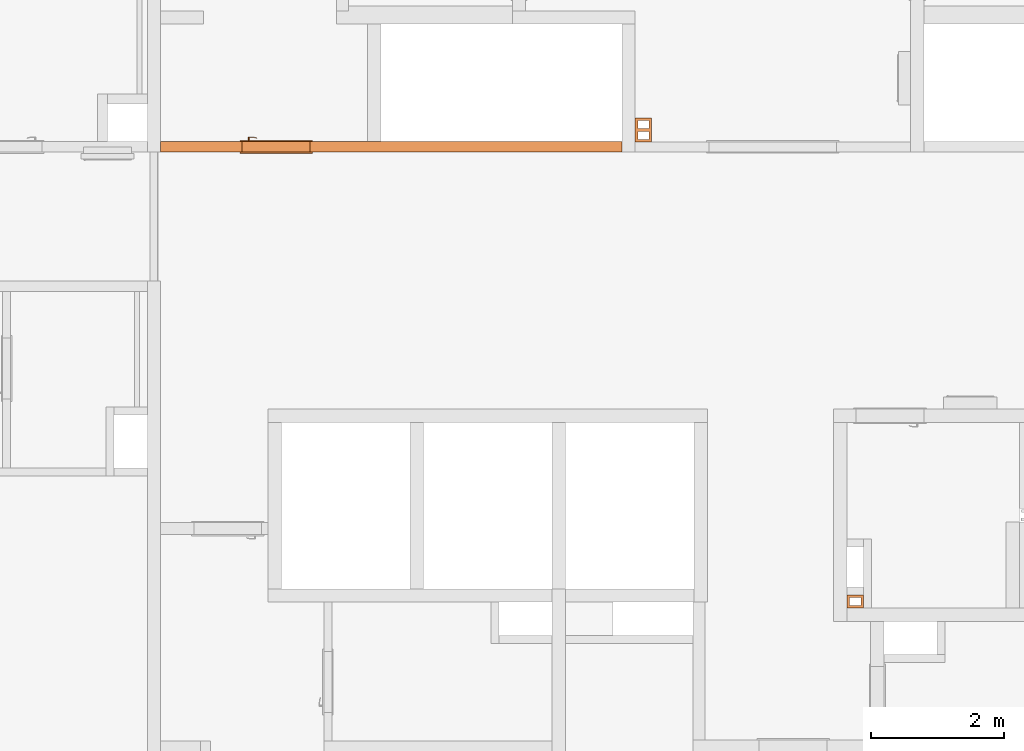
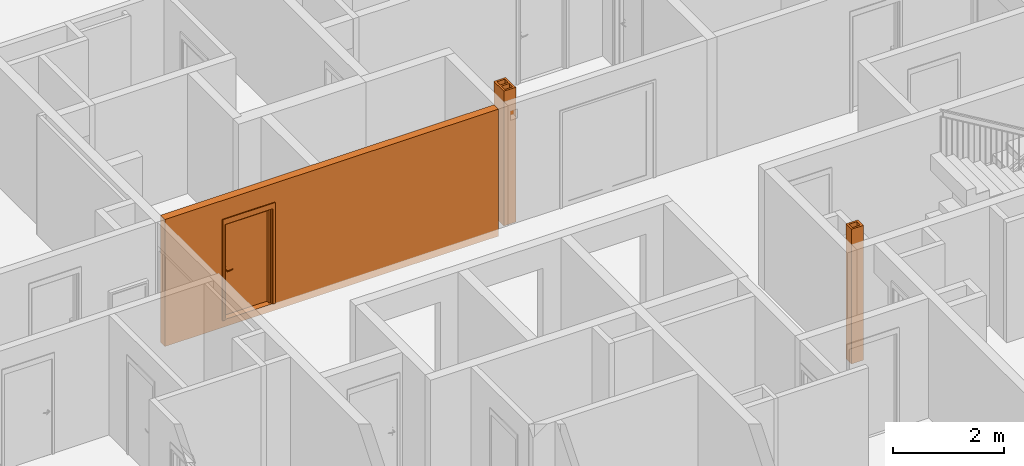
# One storey, part 18 of 66: 4 proxies, 1 opening.
"""IFC2X3 building model written with IfcOpenShell, lengths in millimetres."""

from ifc_helpers import new_model, entity, si_unit, converted_unit, derived_unit, money_unit, direction, frame, origin_with_axes, origin_2d_with_axis, place, context, subcontext, project, spatial, rectangle, extrude, open_shell, faceted_brep, surface_model, source, transform, mapped, material, type_object, element, fill, save


model = new_model("IFC2X3")

# Units and contexts
model_context = context("Model", 3, precision=0.01, world=origin_with_axes(), true_north=direction((0.34421633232, 0.938890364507)))
body_context = subcontext(model_context, "Body", "Model", "MODEL_VIEW")
ifc_project = project(units=[si_unit("LENGTHUNIT", "METRE", prefix="MILLI"), si_unit("AREAUNIT", "SQUARE_METRE"), si_unit("VOLUMEUNIT", "CUBIC_METRE"), converted_unit("PLANEANGLEUNIT", "DEGREE", entity("IfcPlaneAngleMeasure", 0.0174532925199), si_unit("PLANEANGLEUNIT", "RADIAN"), dimensions=[0, 0, 0, 0, 0, 0, 0]), si_unit("SOLIDANGLEUNIT", "STERADIAN"), money_unit("USD"), converted_unit("TIMEUNIT", "Year", entity("IfcTimeMeasure", 31556926.0), si_unit("TIMEUNIT", "SECOND"), dimensions=[0, 0, 1, 0, 0, 0, 0]), si_unit("MASSUNIT", "GRAM", prefix="KILO"), si_unit("THERMODYNAMICTEMPERATUREUNIT", "DEGREE_CELSIUS"), si_unit("LUMINOUSINTENSITYUNIT", "LUMEN"), si_unit("ENERGYUNIT", "JOULE", prefix="MEGA"), derived_unit("THERMALCONDUCTANCEUNIT", [(si_unit("POWERUNIT", "WATT"), 1), (si_unit("LENGTHUNIT", "METRE"), -1), (si_unit("THERMODYNAMICTEMPERATUREUNIT", "KELVIN"), -1)]), derived_unit("SPECIFICHEATCAPACITYUNIT", [(si_unit("ENERGYUNIT", "JOULE"), 1), (si_unit("MASSUNIT", "GRAM", prefix="KILO"), -1), (si_unit("THERMODYNAMICTEMPERATUREUNIT", "KELVIN"), -1)]), derived_unit("MASSDENSITYUNIT", [(si_unit("MASSUNIT", "GRAM", prefix="KILO"), 1), (si_unit("VOLUMEUNIT", "CUBIC_METRE"), -1)])], contexts=[model_context])

# Site, building, storey
site_placement = place(None, origin_with_axes())
site = spatial("IfcSite", under=ifc_project, at=site_placement, Name="USTRONIE MORSKIE", CompositionType="ELEMENT")
building_placement = place(site_placement, origin_with_axes())
building = spatial("IfcBuilding", under=site, at=building_placement, Name="Budynek", CompositionType="ELEMENT")
storey_placement = place(building_placement, frame((0.0, 0.0, 10000.0), z_axis=(0.0, 0.0, 1.0), x_axis=(1.0, 0.0, 0.0)))
storey = spatial("IfcBuildingStorey", under=building, at=storey_placement, Name="PIĘTRO 3", CompositionType="ELEMENT", Elevation=10000.0)

# Proxy
building_element_proxy_type_1 = type_object("IfcBuildingElementProxyType", PredefinedType="NOTDEFINED")
shared_shape_1 = source(origin_with_axes(), body_context, "Body", "Brep", [
    faceted_brep([(0.0, 0.0, 0.0), (200.0, 0.0, 0.0), (200.0, 0.0, 2970.0), (0.0, 0.0, 2970.0), (0.0, 250.0, 0.0), (200.0, 250.0, 0.0), (40.0, 210.0, 0.0), (40.0, 40.0, 0.0), (160.0, 40.0, 0.0), (160.0, 210.0, 0.0), (200.0, 250.0, 2970.0), (0.0, 250.0, 2970.0), (40.0, 210.0, 2970.0), (160.0, 210.0, 2970.0), (160.0, 40.0, 2970.0), (40.0, 40.0, 2970.0)], [[[0, 1, 2, 3]], [[0, 4, 5, 1], [6, 7, 8, 9]], [[1, 5, 10, 2]], [[3, 2, 10, 11], [12, 13, 14, 15]], [[4, 0, 3, 11]], [[5, 4, 11, 10]], [[7, 6, 12, 15]], [[8, 7, 15, 14]], [[9, 8, 14, 13]], [[6, 9, 13, 12]]]),
])
proxy_1_placement = place(storey_placement, frame((389757.920919, 730101.199036, 0.0), z_axis=(0.0, 0.0, 1.0), x_axis=(0.0, -1.0, 0.0)))
element("IfcBuildingElementProxy", 1, at=proxy_1_placement, inside=storey, type_object=building_element_proxy_type_1, Name="Obiekt-007", context=body_context, shape_type="MappedRepresentation", body=[
    mapped(shared_shape_1, transform((0.0, 0.0, 0.0))),
])

# Proxies, opening
ifc_material = material(Name="Beton konstrukcyjny B25")
building_element_proxy_type_2 = type_object("IfcBuildingElementProxyType", Name="Beton konstrukcyjny B25 160", PredefinedType="NOTDEFINED")
proxy_2_placement = place(storey_placement, frame((379317.920919, 736851.199036, -160.0), z_axis=(0.0, 0.0, 1.0), x_axis=(1.0, 0.0, 0.0)))
proxy_2 = element("IfcBuildingElementProxy", 2, at=proxy_2_placement, inside=storey, type_object=building_element_proxy_type_2, material=ifc_material, Name="SW-01", context=body_context, shape_type="Brep", body=[
    faceted_brep([(100.0, 80.0, 0.0), (7050.0, 80.0, 0.0), (7050.0, -80.0, 0.0), (100.0, -80.0, 0.0), (100.0, 80.0, 2800.0), (7050.0, 80.0, 2800.0), (7050.0, -80.0, 2800.0), (100.0, -80.0, 2800.0)], [[[0, 1, 2, 3]], [[4, 5, 1, 0]], [[6, 2, 1, 5]], [[3, 2, 6, 7]], [[7, 4, 0, 3]], [[7, 6, 5, 4]]]),
])
opening_placement = place(proxy_2_placement, frame((1840.0, 0.0, 160.0), z_axis=(0.0, 0.0, 1.0), x_axis=(1.0, 0.0, 0.0)))
opening = element("IfcOpeningElement", 3, at=opening_placement, cuts=proxy_2, Name="Dw.2", context=body_context, shape_type="SweptSolid", body=[
    extrude(rectangle(XDim=1020.0, YDim=2120.0, at=origin_2d_with_axis()), frame((0.0, -160.0, 1060.0), z_axis=(0.0, 1.0, 0.0), x_axis=(1.0, 0.0, 0.0)), (0.0, 0.0, 1.0), 480.0),
    extrude(rectangle(XDim=1094.0, YDim=2227.0, at=origin_2d_with_axis()), frame((0.0, -80.0, 1113.5), z_axis=(0.0, 1.0, 0.0), x_axis=(1.0, 0.0, 0.0)), (0.0, 0.0, -1.0), 160.0),
    extrude(rectangle(XDim=1094.0, YDim=2227.0, at=origin_2d_with_axis()), frame((0.0, 79.9999999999, 1113.5), z_axis=(0.0, -1.0, 0.0), x_axis=(1.0, 0.0, 0.0)), (0.0, 0.0, -1.0), 160.0),
])
building_element_proxy_type_3 = type_object("IfcBuildingElementProxyType", Name="Drzwi 23", PredefinedType="NOTDEFINED")
shared_shape_2 = source(origin_with_axes(), body_context, "Body", "SurfaceModel", [
    faceted_brep([(-510.0, -115.0, 0.0), (-485.0, -115.0, 0.0), (-485.0, -160.0, 0.0), (-510.0, -160.0, 0.0), (-510.0, -115.0, 2120.0), (-485.0, -115.0, 2095.0), (-485.0, -160.0, 2095.0), (-510.0, -160.0, 2120.0)], [[[0, 1, 2, 3]], [[0, 4, 5, 1]], [[1, 5, 6, 2]], [[3, 2, 6, 7]], [[4, 0, 3, 7]], [[5, 4, 7, 6]]]),
    faceted_brep([(510.0, -115.0, 2120.0), (485.0, -115.0, 2095.0), (485.0, -160.0, 2095.0), (510.0, -160.0, 2120.0), (510.0, -115.0, 0.0), (485.0, -115.0, 0.0), (485.0, -160.0, 0.0), (510.0, -160.0, 0.0)], [[[0, 1, 2, 3]], [[0, 4, 5, 1]], [[1, 5, 6, 2]], [[3, 2, 6, 7]], [[4, 0, 3, 7]], [[5, 4, 7, 6]]]),
    faceted_brep([(-485.0, -115.0, 2095.0), (485.0, -115.0, 2095.0), (485.0, -160.0, 2095.0), (-485.0, -160.0, 2095.0), (-510.0, -115.0, 2120.0), (510.0, -115.0, 2120.0), (510.0, -160.0, 2120.0), (-510.0, -160.0, 2120.0)], [[[0, 1, 2, 3]], [[0, 4, 5, 1]], [[1, 5, 6, 2]], [[3, 2, 6, 7]], [[4, 0, 3, 7]], [[5, 4, 7, 6]]]),
    faceted_brep([(-547.0, -179.0, 0.0), (-547.0, -160.0, 0.0), (-497.0, -160.0, 0.0), (-497.0, -179.0, 0.0), (-547.0, -179.0, 2227.0), (-547.0, -160.0, 2227.0), (-497.0, -160.0, 2107.0), (-497.0, -179.0, 2107.0)], [[[0, 1, 2, 3]], [[4, 5, 1, 0]], [[1, 5, 6, 2]], [[3, 2, 6, 7]], [[0, 3, 7, 4]], [[7, 6, 5, 4]]]),
    faceted_brep([(547.0, -179.0, 2227.0), (547.0, -160.0, 2227.0), (497.0, -160.0, 2107.0), (497.0, -179.0, 2107.0), (547.0, -179.0, 0.0), (547.0, -160.0, 0.0), (497.0, -160.0, 0.0), (497.0, -179.0, 0.0)], [[[0, 1, 2, 3]], [[4, 5, 1, 0]], [[1, 5, 6, 2]], [[3, 2, 6, 7]], [[0, 3, 7, 4]], [[7, 6, 5, 4]]]),
    faceted_brep([(-547.0, -179.0, 2227.0), (-547.0, -160.0, 2227.0), (-497.0, -160.0, 2107.0), (-497.0, -179.0, 2107.0), (547.0, -179.0, 2227.0), (547.0, -160.0, 2227.0), (497.0, -160.0, 2107.0), (497.0, -179.0, 2107.0)], [[[0, 1, 2, 3]], [[4, 5, 1, 0]], [[1, 5, 6, 2]], [[3, 2, 6, 7]], [[0, 3, 7, 4]], [[7, 6, 5, 4]]]),
    faceted_brep([(-547.0, 19.0, 0.0), (-497.0, 19.0, 0.0), (-497.0, 0.0, 0.0), (-547.0, 0.0, 0.0), (-547.0, 19.0, 2227.0), (-497.0, 19.0, 2107.0), (-497.0, 0.0, 2107.0), (-547.0, 0.0, 2227.0)], [[[0, 1, 2, 3]], [[0, 4, 5, 1]], [[1, 5, 6, 2]], [[3, 2, 6, 7]], [[4, 0, 3, 7]], [[5, 4, 7, 6]]]),
    faceted_brep([(547.0, 19.0, 2227.0), (497.0, 19.0, 2107.0), (497.0, 0.0, 2107.0), (547.0, 0.0, 2227.0), (547.0, 19.0, 0.0), (497.0, 19.0, 0.0), (497.0, 0.0, 0.0), (547.0, 0.0, 0.0)], [[[0, 1, 2, 3]], [[0, 4, 5, 1]], [[1, 5, 6, 2]], [[3, 2, 6, 7]], [[4, 0, 3, 7]], [[5, 4, 7, 6]]]),
    faceted_brep([(-547.0, 19.0, 2227.0), (-497.0, 19.0, 2107.0), (-497.0, 0.0, 2107.0), (-547.0, 0.0, 2227.0), (547.0, 19.0, 2227.0), (497.0, 19.0, 2107.0), (497.0, 0.0, 2107.0), (547.0, 0.0, 2227.0)], [[[0, 1, 2, 3]], [[0, 4, 5, 1]], [[1, 5, 6, 2]], [[3, 2, 6, 7]], [[4, 0, 3, 7]], [[5, 4, 7, 6]]]),
    faceted_brep([(-450.0, -40.0, 0.0), (-450.0, -40.0, 2050.0), (-450.0, -115.0, 2050.0), (-450.0, -115.0, 0.0), (-462.0, -40.0, 2050.0), (-462.0, -40.0, 0.0), (-462.0, 0.0, 2050.0), (-510.0, 0.0, 2050.0), (-510.0, -115.0, 2050.0), (-510.0, -115.0, 0.0), (-510.0, 0.0, 0.0), (-462.0, 0.0, 0.0)], [[[0, 1, 2, 3]], [[4, 1, 0, 5]], [[4, 6, 7, 8, 2, 1]], [[3, 2, 8, 9]], [[5, 0, 3, 9, 10, 11]], [[6, 4, 5, 11]], [[6, 11, 10, 7]], [[10, 9, 8, 7]]]),
    faceted_brep([(462.0, -40.0, 2050.0), (450.0, -40.0, 2050.0), (450.0, -115.0, 2050.0), (510.0, -115.0, 2050.0), (510.0, 0.0, 2050.0), (462.0, 0.0, 2050.0), (462.0, -40.0, 0.0), (450.0, -40.0, 0.0), (450.0, -115.0, 0.0), (510.0, -115.0, 0.0), (510.0, 0.0, 0.0), (462.0, 0.0, 0.0)], [[[0, 1, 2, 3, 4, 5]], [[1, 0, 6, 7]], [[1, 7, 8, 2]], [[3, 2, 8, 9]], [[4, 3, 9, 10]], [[11, 5, 4, 10]], [[0, 5, 11, 6]], [[6, 11, 10, 9, 8, 7]]]),
    faceted_brep([(-462.0, 0.0, 2062.0), (-462.0, 0.0, 2050.0), (-510.0, 0.0, 2050.0), (-510.0, 0.0, 2120.0), (510.0, 0.0, 2120.0), (510.0, 0.0, 2050.0), (462.0, 0.0, 2050.0), (462.0, 0.0, 2062.0), (-462.0, -40.0, 2062.0), (-462.0, -40.0, 2050.0), (-450.0, -40.0, 2050.0), (-450.0, -115.0, 2050.0), (-510.0, -115.0, 2050.0), (-510.0, -115.0, 2120.0), (510.0, -115.0, 2120.0), (510.0, -115.0, 2050.0), (462.0, -40.0, 2050.0), (450.0, -115.0, 2050.0), (450.0, -40.0, 2050.0), (462.0, -40.0, 2062.0)], [[[0, 1, 2, 3, 4, 5, 6, 7]], [[1, 0, 8, 9]], [[9, 10, 11, 12, 2, 1]], [[2, 12, 13, 3]], [[3, 13, 14, 4]], [[4, 14, 15, 5]], [[16, 6, 5, 15, 17, 18]], [[7, 6, 16, 19]], [[0, 7, 19, 8]], [[16, 18, 10, 9, 8, 19]], [[10, 18, 17, 11]], [[17, 15, 14, 13, 12, 11]]]),
    faceted_brep([(-440.5, -40.0, 1060.0), (-440.5, -43.0, 1060.0), (-383.5, -43.0, 1060.0), (-383.5, -40.0, 1060.0), (-440.5, -40.0, 870.0), (-440.5, -43.0, 870.0), (-383.5, -43.0, 870.0), (-383.5, -40.0, 870.0)], [[[0, 1, 2, 3]], [[4, 5, 1, 0]], [[1, 5, 6, 2]], [[3, 2, 6, 7]], [[0, 3, 7, 4]], [[7, 6, 5, 4]]]),
    faceted_brep([(-412.0, -104.0, 990.0), (-412.0, -111.0, 990.0), (-417.0, -111.0, 991.339745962), (-417.0, -104.0, 991.339745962), (-387.0, -104.0, 990.0), (-387.0, -111.0, 990.0), (-387.0, -111.0, 1010.0), (-412.0, -111.0, 1010.0), (-417.0, -111.0, 1008.66025404), (-420.660254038, -111.0, 1005.0), (-422.0, -111.0, 1000.0), (-420.660254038, -111.0, 995.0), (-420.660254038, -104.0, 995.0), (-422.0, -104.0, 1000.0), (-420.660254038, -104.0, 1005.0), (-417.0, -104.0, 1008.66025404), (-412.0, -104.0, 1010.0), (-387.0, -104.0, 1010.0)], [[[0, 1, 2, 3]], [[4, 5, 1, 0]], [[1, 5, 6, 7, 8, 9, 10, 11, 2]], [[3, 2, 11, 12]], [[0, 3, 12, 13, 14, 15, 16, 17, 4]], [[17, 6, 5, 4]], [[16, 7, 6, 17]], [[15, 8, 7, 16]], [[14, 9, 8, 15]], [[13, 10, 9, 14]], [[12, 11, 10, 13]]]),
    surface_model("IfcShellBasedSurfaceModel", [(-387.0, -104.0, 1010.0), (-373.596090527, -111.0, 1009.60730092), (-373.901717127, -104.0, 1009.60730092), (-387.0, -111.0, 1010.0), (-346.890283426, -108.663544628, 1008.82190275), (-373.901717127, -104.0, 990.392699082), (-387.0, -104.0, 990.0), (-387.0, -111.0, 990.0), (-373.596090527, -111.0, 990.392699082), (-346.890283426, -108.663544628, 991.178097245), (-347.804837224, -101.716818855, 1008.82190275), (-347.804837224, -101.716818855, 991.178097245), (-320.489735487, -104.008415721, 991.963495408), (-320.489735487, -104.008415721, 1008.03650459), (-322.006256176, -97.1678329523, 1008.03650459), (-322.006256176, -97.1678329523, 991.963495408), (-294.59537082, -97.0700416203, 992.748893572), (-294.59537082, -97.0700416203, 1007.25110643), (-296.702316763, -90.3876628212, 1007.25110643), (-296.702316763, -90.3876628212, 992.748893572), (-286.538795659, -94.1376880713, 993.0), (-286.538795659, -94.1376880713, 1007.0), (-288.829442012, -87.5221707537, 1007.0), (-288.829442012, -87.5221707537, 993.0)], [open_shell([[[0, 1, 2]], [[0, 3, 1]], [[2, 1, 4]], [[0, 2, 5, 6]], [[3, 7, 8, 1]], [[1, 8, 9, 4]], [[2, 4, 10]], [[2, 10, 11, 5]], [[5, 7, 6]], [[5, 8, 7]], [[11, 9, 8]], [[4, 9, 12, 13]], [[10, 4, 13]], [[10, 14, 15, 11]], [[11, 8, 5]], [[15, 9, 11]], [[15, 12, 9]], [[13, 12, 16, 17]], [[10, 13, 14]], [[14, 18, 19, 15]], [[19, 12, 15]], [[19, 16, 12]], [[17, 16, 20, 21]], [[14, 13, 17]], [[14, 17, 18]], [[18, 22, 23, 19]], [[23, 16, 19]], [[23, 20, 16]], [[22, 21, 20, 23]], [[18, 17, 21]], [[18, 21, 22]]])]),
    faceted_brep([(-401.607695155, -53.0, 994.0), (-400.741669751, -43.0, 993.5), (-399.0, -43.0, 1000.0), (-400.0, -53.0, 1000.0), (-406.0, -53.0, 989.607695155), (-405.5, -43.0, 988.741669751), (-412.0, -43.0, 987.0), (-418.5, -43.0, 988.741669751), (-423.258330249, -43.0, 993.5), (-425.0, -43.0, 1000.0), (-423.258330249, -43.0, 1006.5), (-418.5, -43.0, 1011.25833025), (-412.0, -43.0, 1013.0), (-405.5, -43.0, 1011.25833025), (-400.741669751, -43.0, 1006.5), (-401.607695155, -53.0, 1006.0), (-406.0, -53.0, 1010.39230485), (-412.0, -53.0, 1012.0), (-418.0, -53.0, 1010.39230485), (-422.392304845, -53.0, 1006.0), (-424.0, -53.0, 1000.0), (-422.392304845, -53.0, 994.0), (-418.0, -53.0, 989.607695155), (-412.0, -53.0, 988.0)], [[[0, 1, 2, 3]], [[4, 5, 1, 0]], [[2, 1, 5, 6, 7, 8, 9, 10, 11, 12, 13, 14]], [[3, 2, 14, 15]], [[3, 15, 16, 17, 18, 19, 20, 21, 22, 23, 4, 0]], [[23, 6, 5, 4]], [[22, 7, 6, 23]], [[21, 8, 7, 22]], [[20, 9, 8, 21]], [[19, 10, 9, 20]], [[18, 11, 10, 19]], [[17, 12, 11, 18]], [[16, 13, 12, 17]], [[15, 14, 13, 16]]]),
    faceted_brep([(-394.679491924, -47.0, 895.0), (-392.947441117, -43.0, 894.0), (-390.0, -43.0, 905.0), (-392.0, -47.0, 905.0), (-402.0, -47.0, 887.679491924), (-401.0, -43.0, 885.947441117), (-412.0, -43.0, 883.0), (-423.0, -43.0, 885.947441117), (-431.052558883, -43.0, 894.0), (-434.0, -43.0, 905.0), (-431.052558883, -43.0, 916.0), (-423.0, -43.0, 924.052558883), (-412.0, -43.0, 927.0), (-401.0, -43.0, 924.052558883), (-392.947441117, -43.0, 916.0), (-394.679491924, -47.0, 915.0), (-402.0, -47.0, 922.320508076), (-412.0, -47.0, 925.0), (-422.0, -47.0, 922.320508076), (-429.320508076, -47.0, 915.0), (-432.0, -47.0, 905.0), (-429.320508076, -47.0, 895.0), (-422.0, -47.0, 887.679491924), (-412.0, -47.0, 885.0)], [[[0, 1, 2, 3]], [[4, 5, 1, 0]], [[2, 1, 5, 6, 7, 8, 9, 10, 11, 12, 13, 14]], [[3, 2, 14, 15]], [[3, 15, 16, 17, 18, 19, 20, 21, 22, 23, 4, 0]], [[23, 6, 5, 4]], [[22, 7, 6, 23]], [[21, 8, 7, 22]], [[20, 9, 8, 21]], [[19, 10, 9, 20]], [[18, 11, 10, 19]], [[17, 12, 11, 18]], [[16, 13, 12, 17]], [[15, 14, 13, 16]]]),
    faceted_brep([(-407.050252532, -49.0, 909.050252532), (-406.343145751, -47.0, 908.343145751), (-404.0, -47.0, 914.0), (-405.0, -49.0, 914.0), (-412.0, -49.0, 907.0), (-412.0, -47.0, 906.0), (-417.656854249, -47.0, 908.343145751), (-420.0, -47.0, 914.0), (-417.656854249, -47.0, 919.656854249), (-412.0, -47.0, 922.0), (-406.343145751, -47.0, 919.656854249), (-407.050252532, -49.0, 918.949747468), (-412.0, -49.0, 921.0), (-416.949747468, -49.0, 918.949747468), (-419.0, -49.0, 914.0), (-416.949747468, -49.0, 909.050252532)], [[[0, 1, 2, 3]], [[4, 5, 1, 0]], [[2, 1, 5, 6, 7, 8, 9, 10]], [[3, 2, 10, 11]], [[3, 11, 12, 13, 14, 15, 4, 0]], [[15, 6, 5, 4]], [[14, 7, 6, 15]], [[13, 8, 7, 14]], [[12, 9, 8, 13]], [[11, 10, 9, 12]]]),
    faceted_brep([(-412.0, -53.0, 1010.0), (-412.0, -104.0, 1010.0), (-407.0, -104.0, 1008.66025404), (-407.0, -53.0, 1008.66025404), (-417.0, -53.0, 1008.66025404), (-417.0, -104.0, 1008.66025404), (-420.660254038, -104.0, 1005.0), (-422.0, -104.0, 1000.0), (-420.660254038, -104.0, 995.0), (-417.0, -104.0, 991.339745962), (-412.0, -104.0, 990.0), (-407.0, -104.0, 991.339745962), (-403.339745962, -104.0, 995.0), (-402.0, -104.0, 1000.0), (-403.339745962, -104.0, 1005.0), (-403.339745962, -53.0, 1005.0), (-402.0, -53.0, 1000.0), (-403.339745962, -53.0, 995.0), (-407.0, -53.0, 991.339745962), (-412.0, -53.0, 990.0), (-417.0, -53.0, 991.339745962), (-420.660254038, -53.0, 995.0), (-422.0, -53.0, 1000.0), (-420.660254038, -53.0, 1005.0)], [[[0, 1, 2, 3]], [[4, 5, 1, 0]], [[1, 5, 6, 7, 8, 9, 10, 11, 12, 13, 14, 2]], [[3, 2, 14, 15]], [[0, 3, 15, 16, 17, 18, 19, 20, 21, 22, 23, 4]], [[23, 6, 5, 4]], [[22, 7, 6, 23]], [[21, 8, 7, 22]], [[20, 9, 8, 21]], [[19, 10, 9, 20]], [[18, 11, 10, 19]], [[17, 12, 11, 18]], [[16, 13, 12, 17]], [[15, 14, 13, 16]]]),
    faceted_brep([(-440.5, 0.0, 1060.0), (-383.5, 0.0, 1060.0), (-383.5, 3.0, 1060.0), (-440.5, 3.0, 1060.0), (-440.5, 0.0, 870.0), (-383.5, 0.0, 870.0), (-383.5, 3.0, 870.0), (-440.5, 3.0, 870.0)], [[[0, 1, 2, 3]], [[0, 4, 5, 1]], [[1, 5, 6, 2]], [[3, 2, 6, 7]], [[4, 0, 3, 7]], [[5, 4, 7, 6]]]),
    faceted_brep([(-412.0, 64.0, 990.0), (-417.0, 64.0, 991.339745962), (-417.0, 71.0, 991.339745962), (-412.0, 71.0, 990.0), (-387.0, 64.0, 990.0), (-387.0, 64.0, 1010.0), (-412.0, 64.0, 1010.0), (-417.0, 64.0, 1008.66025404), (-420.660254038, 64.0, 1005.0), (-422.0, 64.0, 1000.0), (-420.660254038, 64.0, 995.0), (-420.660254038, 71.0, 995.0), (-422.0, 71.0, 1000.0), (-420.660254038, 71.0, 1005.0), (-417.0, 71.0, 1008.66025404), (-412.0, 71.0, 1010.0), (-387.0, 71.0, 1010.0), (-387.0, 71.0, 990.0)], [[[0, 1, 2, 3]], [[0, 4, 5, 6, 7, 8, 9, 10, 1]], [[1, 10, 11, 2]], [[3, 2, 11, 12, 13, 14, 15, 16, 17]], [[4, 0, 3, 17]], [[5, 4, 17, 16]], [[6, 5, 16, 15]], [[7, 6, 15, 14]], [[8, 7, 14, 13]], [[9, 8, 13, 12]], [[10, 9, 12, 11]]]),
    surface_model("IfcShellBasedSurfaceModel", [(-387.0, 64.0, 1010.0), (-373.901717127, 64.0, 1009.60730092), (-373.596090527, 71.0, 1009.60730092), (-387.0, 64.0, 990.0), (-373.901717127, 64.0, 990.392699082), (-346.890283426, 68.6635446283, 1008.82190275), (-387.0, 71.0, 1010.0), (-387.0, 71.0, 990.0), (-347.804837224, 61.716818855, 991.178097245), (-347.804837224, 61.716818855, 1008.82190275), (-346.890283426, 68.6635446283, 991.178097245), (-373.596090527, 71.0, 990.392699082), (-322.006256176, 57.1678329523, 991.963495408), (-322.006256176, 57.1678329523, 1008.03650459), (-320.489735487, 64.0084157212, 1008.03650459), (-320.489735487, 64.0084157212, 991.963495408), (-296.702316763, 50.3876628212, 992.748893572), (-296.702316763, 50.3876628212, 1007.25110643), (-294.59537082, 57.0700416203, 1007.25110643), (-294.59537082, 57.0700416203, 992.748893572), (-288.829442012, 47.5221707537, 993.0), (-288.829442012, 47.5221707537, 1007.0), (-286.538795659, 54.1376880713, 1007.0), (-286.538795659, 54.1376880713, 993.0)], [open_shell([[[0, 1, 2]], [[0, 3, 4, 1]], [[1, 5, 2]], [[0, 2, 6]], [[4, 3, 7]], [[1, 4, 8, 9]], [[1, 9, 5]], [[2, 5, 10, 11]], [[6, 2, 11, 7]], [[4, 7, 11]], [[8, 4, 11]], [[9, 8, 12, 13]], [[9, 14, 5]], [[5, 14, 15, 10]], [[8, 11, 10]], [[12, 8, 10]], [[13, 12, 16, 17]], [[9, 13, 14]], [[14, 18, 19, 15]], [[12, 10, 15]], [[16, 12, 15]], [[17, 16, 20, 21]], [[13, 17, 18]], [[13, 18, 14]], [[18, 22, 23, 19]], [[16, 15, 19]], [[20, 16, 19]], [[21, 20, 23, 22]], [[17, 21, 22]], [[17, 22, 18]], [[20, 19, 23]]])]),
    faceted_brep([(-401.607695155, 13.0, 994.0), (-400.0, 13.0, 1000.0), (-399.0, 3.0, 1000.0), (-400.741669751, 3.0, 993.5), (-406.0, 13.0, 989.607695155), (-412.0, 13.0, 988.0), (-418.0, 13.0, 989.607695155), (-422.392304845, 13.0, 994.0), (-424.0, 13.0, 1000.0), (-422.392304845, 13.0, 1006.0), (-418.0, 13.0, 1010.39230485), (-412.0, 13.0, 1012.0), (-406.0, 13.0, 1010.39230485), (-401.607695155, 13.0, 1006.0), (-400.741669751, 3.0, 1006.5), (-405.5, 3.0, 1011.25833025), (-412.0, 3.0, 1013.0), (-418.5, 3.0, 1011.25833025), (-423.258330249, 3.0, 1006.5), (-425.0, 3.0, 1000.0), (-423.258330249, 3.0, 993.5), (-418.5, 3.0, 988.741669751), (-412.0, 3.0, 987.0), (-405.5, 3.0, 988.741669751)], [[[0, 1, 2, 3]], [[1, 0, 4, 5, 6, 7, 8, 9, 10, 11, 12, 13]], [[1, 13, 14, 2]], [[2, 14, 15, 16, 17, 18, 19, 20, 21, 22, 23, 3]], [[4, 0, 3, 23]], [[5, 4, 23, 22]], [[6, 5, 22, 21]], [[7, 6, 21, 20]], [[8, 7, 20, 19]], [[9, 8, 19, 18]], [[10, 9, 18, 17]], [[11, 10, 17, 16]], [[12, 11, 16, 15]], [[13, 12, 15, 14]]]),
    faceted_brep([(-394.679491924, 7.0, 895.0), (-392.0, 7.0, 905.0), (-390.0, 3.0, 905.0), (-392.947441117, 3.0, 894.0), (-402.0, 7.0, 887.679491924), (-412.0, 7.0, 885.0), (-422.0, 7.0, 887.679491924), (-429.320508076, 7.0, 895.0), (-432.0, 7.0, 905.0), (-429.320508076, 7.0, 915.0), (-422.0, 7.0, 922.320508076), (-412.0, 7.0, 925.0), (-402.0, 7.0, 922.320508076), (-394.679491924, 7.0, 915.0), (-392.947441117, 3.0, 916.0), (-401.0, 3.0, 924.052558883), (-412.0, 3.0, 927.0), (-423.0, 3.0, 924.052558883), (-431.052558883, 3.0, 916.0), (-434.0, 3.0, 905.0), (-431.052558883, 3.0, 894.0), (-423.0, 3.0, 885.947441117), (-412.0, 3.0, 883.0), (-401.0, 3.0, 885.947441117)], [[[0, 1, 2, 3]], [[1, 0, 4, 5, 6, 7, 8, 9, 10, 11, 12, 13]], [[1, 13, 14, 2]], [[2, 14, 15, 16, 17, 18, 19, 20, 21, 22, 23, 3]], [[4, 0, 3, 23]], [[5, 4, 23, 22]], [[6, 5, 22, 21]], [[7, 6, 21, 20]], [[8, 7, 20, 19]], [[9, 8, 19, 18]], [[10, 9, 18, 17]], [[11, 10, 17, 16]], [[12, 11, 16, 15]], [[13, 12, 15, 14]]]),
    faceted_brep([(-407.050252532, 9.0, 909.050252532), (-405.0, 9.0, 914.0), (-404.0, 7.0, 914.0), (-406.343145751, 7.0, 908.343145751), (-412.0, 9.0, 907.0), (-416.949747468, 9.0, 909.050252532), (-419.0, 9.0, 914.0), (-416.949747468, 9.0, 918.949747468), (-412.0, 9.0, 921.0), (-407.050252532, 9.0, 918.949747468), (-406.343145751, 7.0, 919.656854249), (-412.0, 7.0, 922.0), (-417.656854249, 7.0, 919.656854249), (-420.0, 7.0, 914.0), (-417.656854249, 7.0, 908.343145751), (-412.0, 7.0, 906.0)], [[[0, 1, 2, 3]], [[1, 0, 4, 5, 6, 7, 8, 9]], [[1, 9, 10, 2]], [[2, 10, 11, 12, 13, 14, 15, 3]], [[4, 0, 3, 15]], [[5, 4, 15, 14]], [[6, 5, 14, 13]], [[7, 6, 13, 12]], [[8, 7, 12, 11]], [[9, 8, 11, 10]]]),
    faceted_brep([(-412.0, 13.0, 1010.0), (-407.0, 13.0, 1008.66025404), (-407.0, 64.0, 1008.66025404), (-412.0, 64.0, 1010.0), (-417.0, 13.0, 1008.66025404), (-420.660254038, 13.0, 1005.0), (-422.0, 13.0, 1000.0), (-420.660254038, 13.0, 995.0), (-417.0, 13.0, 991.339745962), (-412.0, 13.0, 990.0), (-407.0, 13.0, 991.339745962), (-403.339745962, 13.0, 995.0), (-402.0, 13.0, 1000.0), (-403.339745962, 13.0, 1005.0), (-403.339745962, 64.0, 1005.0), (-402.0, 64.0, 1000.0), (-403.339745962, 64.0, 995.0), (-407.0, 64.0, 991.339745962), (-412.0, 64.0, 990.0), (-417.0, 64.0, 991.339745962), (-420.660254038, 64.0, 995.0), (-422.0, 64.0, 1000.0), (-420.660254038, 64.0, 1005.0), (-417.0, 64.0, 1008.66025404)], [[[0, 1, 2, 3]], [[0, 4, 5, 6, 7, 8, 9, 10, 11, 12, 13, 1]], [[1, 13, 14, 2]], [[3, 2, 14, 15, 16, 17, 18, 19, 20, 21, 22, 23]], [[4, 0, 3, 23]], [[5, 4, 23, 22]], [[6, 5, 22, 21]], [[7, 6, 21, 20]], [[8, 7, 20, 19]], [[9, 8, 19, 18]], [[10, 9, 18, 17]], [[11, 10, 17, 16]], [[12, 11, 16, 15]], [[13, 12, 15, 14]]]),
    faceted_brep([(462.0, 0.0, 0.0), (462.0, -40.0, 0.0), (-462.0, -40.0, 0.0), (-462.0, 0.0, 0.0), (462.0, 0.0, 2062.0), (462.0, -40.0, 2062.0), (-462.0, -40.0, 2062.0), (-462.0, 0.0, 2062.0)], [[[0, 1, 2, 3]], [[4, 5, 1, 0]], [[1, 5, 6, 2]], [[3, 2, 6, 7]], [[0, 3, 7, 4]], [[7, 6, 5, 4]]]),
])
proxy_3_placement = place(opening_placement, frame((-450.0, 0.0, 0.0), z_axis=(0.0, 0.0, 1.0), x_axis=(1.0, 0.0, 0.0)))
proxy_3 = element("IfcBuildingElementProxy", 4, at=proxy_3_placement, inside=storey, type_object=building_element_proxy_type_3, Name="Dw.2", context=body_context, shape_type="MappedRepresentation", body=[
    mapped(shared_shape_2, transform((450.0, 79.9999999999, 0.0))),
])
fill(opening, proxy_3)

# Proxy
shared_shape_3 = source(origin_with_axes(), body_context, "Body", "Brep", [
    faceted_brep([(0.0, 0.0, 0.0), (0.0, 0.0, 2970.0), (-360.0, 0.0, 2970.0), (-360.0, 0.0, 0.0), (0.0, 250.0, 0.0), (0.0, 250.0, 2970.0), (-360.0, 250.0, 2970.0), (-40.0, 210.0, 2970.0), (-40.0, 40.0, 2970.0), (-160.0, 40.0, 2970.0), (-160.0, 210.0, 2970.0), (-200.0, 210.0, 2970.0), (-200.0, 40.0, 2970.0), (-320.0, 40.0, 2970.0), (-320.0, 210.0, 2970.0), (-360.0, 250.0, 0.0), (-40.0, 210.0, 0.0), (-160.0, 210.0, 0.0), (-160.0, 40.0, 0.0), (-40.0, 40.0, 0.0), (-200.0, 210.0, 0.0), (-320.0, 210.0, 0.0), (-320.0, 40.0, 0.0), (-200.0, 40.0, 0.0)], [[[0, 1, 2, 3]], [[4, 5, 1, 0]], [[1, 5, 6, 2], [7, 8, 9, 10], [11, 12, 13, 14]], [[3, 2, 6, 15]], [[0, 3, 15, 4], [16, 17, 18, 19], [20, 21, 22, 23]], [[15, 6, 5, 4]], [[19, 8, 7, 16]], [[18, 9, 8, 19]], [[17, 10, 9, 18]], [[16, 7, 10, 17]], [[23, 12, 11, 20]], [[22, 13, 12, 23]], [[21, 14, 13, 22]], [[20, 11, 14, 21]]]),
])
proxy_4_placement = place(storey_placement, frame((386817.920919, 737286.199036, -100.0), z_axis=(0.0, 0.0, 1.0), x_axis=(0.0, 1.0, 0.0)))
element("IfcBuildingElementProxy", 5, at=proxy_4_placement, inside=storey, type_object=building_element_proxy_type_1, Name="Obiekt-007", context=body_context, shape_type="MappedRepresentation", body=[
    mapped(shared_shape_3, transform((0.0, 0.0, 0.0))),
])

save(model, "model.ifc")
